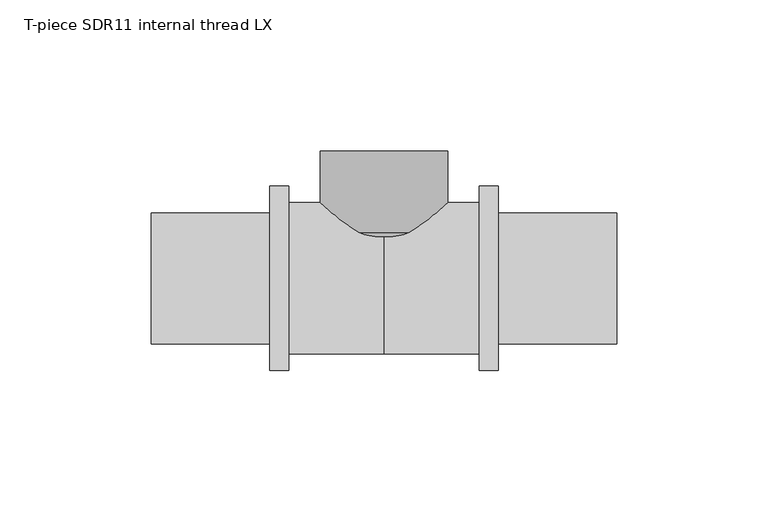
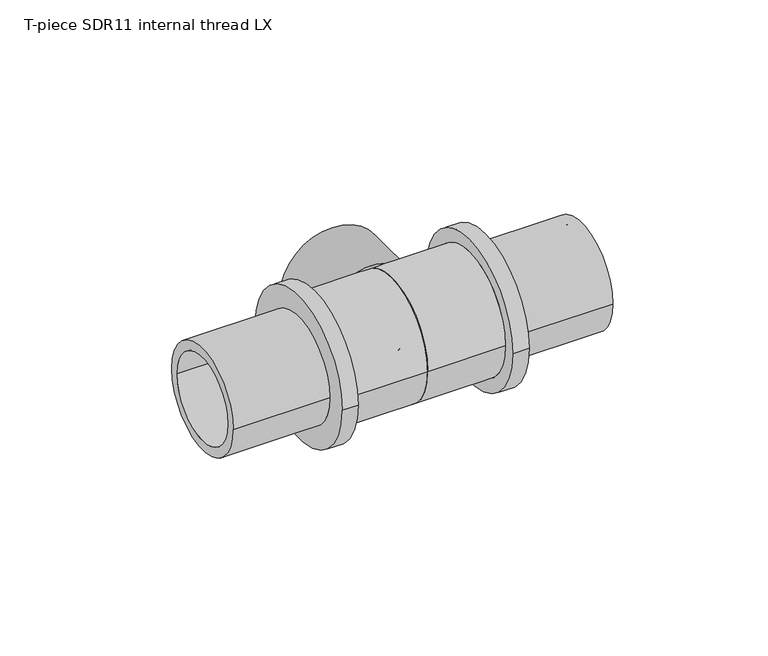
"""IFC4 building model written with IfcOpenShell, lengths in millimetres: pipe fitting geometry, T-piece SDR11 internal thread LX : T-piece LX SDR11 internal LX."""

import ifcopenshell
import ifcopenshell.guid

model = None  # the IFC model being written
_history = None  # IfcOwnerHistory: only IFC2X3 demands one
_inside = {}  # id of a spatial element -> (the spatial element, [elements in it])
_under = {}  # id of a project, library or spatial element -> (it, [spatial elements below it])
_declared = {}  # id of a project -> (the project, [libraries it declares])
_typed = {}  # id of a type object -> (the type object, [elements of that type])
_made_of = {}  # id of a material, layer set ... -> (it, [elements and type objects made of it])


def new_model(schema):
    """Start an empty IFC model of exactly this schema.

    Asked for "IFC4X3", IfcOpenShell would pick the latest addendum, in which some entities
    have other attributes; the version numbers below select the first issue.
    IFC2X3 requires an IfcOwnerHistory on every rooted entity: one is made here for all.
    """
    global model, _history
    if schema == "IFC4X3":
        model = ifcopenshell.file(schema_version=(4, 3, 0, 0))
    else:
        model = ifcopenshell.file(schema=schema)
    _inside.clear()
    _under.clear()
    _declared.clear()
    _typed.clear()
    _made_of.clear()
    _history = None
    if model.schema == "IFC2X3":
        org = make("IfcOrganization", Name="unknown")
        user = make(
            "IfcPersonAndOrganization",
            ThePerson=make("IfcPerson", FamilyName="unknown"),
            TheOrganization=org,
        )
        app = make(
            "IfcApplication",
            ApplicationDeveloper=org,
            Version="unknown",
            ApplicationFullName="unknown",
            ApplicationIdentifier="unknown",
        )
        _history = make(
            "IfcOwnerHistory",
            OwningUser=user,
            OwningApplication=app,
            ChangeAction="ADDED",
            CreationDate=0,
        )
    return model


def make(cls, **values):
    """One entity of the class cls with the attributes given. An attribute that is None is left unset."""
    return model.create_entity(
        cls, **{name: value for name, value in values.items() if value is not None}
    )


def rooted(cls, **values):
    """An entity with a GlobalId (a new one), such as an element, a storey or a relation."""
    return make(cls, GlobalId=ifcopenshell.guid.new(), OwnerHistory=_history, **values)


def si_unit(unit_type, name, prefix=None):
    """IfcSIUnit, for example si_unit("LENGTHUNIT", "METRE", prefix="MILLI")."""
    return make("IfcSIUnit", UnitType=unit_type, Prefix=prefix, Name=name)


def assignment(units):
    """IfcUnitAssignment: the units of a project."""
    return None if units is None else make("IfcUnitAssignment", Units=units)


def point(xyz):
    """IfcCartesianPoint."""
    return None if xyz is None else make("IfcCartesianPoint", Coordinates=xyz)


def direction(xyz):
    """IfcDirection."""
    return None if xyz is None else make("IfcDirection", DirectionRatios=xyz)


def frame(location, z_axis=None, x_axis=None):
    """IfcAxis2Placement3D, a coordinate frame: its origin and axes. An axis left out is left unset."""
    return make(
        "IfcAxis2Placement3D",
        Location=point(location),
        Axis=direction(z_axis),
        RefDirection=direction(x_axis),
    )


def origin():
    """The frame at (0, 0, 0) with its axes left unset."""
    return frame((0.0, 0.0, 0.0))


def place(relative_to, where):
    """IfcLocalPlacement: puts the frame where relative to a parent placement (None: the world)."""
    return make(
        "IfcLocalPlacement", PlacementRelTo=relative_to, RelativePlacement=where
    )


def context(
    kind, dimensions, precision=None, world=None, true_north=None, identifier=None
):
    """IfcGeometricRepresentationContext, for example the 3D "Model" context."""
    return make(
        "IfcGeometricRepresentationContext",
        ContextIdentifier=identifier,
        ContextType=kind,
        CoordinateSpaceDimension=dimensions,
        Precision=precision,
        WorldCoordinateSystem=world,
        TrueNorth=true_north,
    )


def project(units=None, contexts=None):
    """IfcProject with its units and contexts."""
    return rooted(
        "IfcProject",
        Name="project",
        RepresentationContexts=contexts,
        UnitsInContext=assignment(units),
    )


def spatial(cls, under=None, at=None, **own):
    """A site, building, storey or space (cls), placed at a placement, below another one or the project."""
    s = rooted(cls, ObjectPlacement=at, **own)
    if under is not None:
        _under.setdefault(under.id(), (under, []))[1].append(s)
    return s


def polyline(points):
    """IfcPolyline through the points."""
    return make("IfcPolyline", Points=[point(p) for p in points])


def circle_curve(where, radius):
    """IfcCircle in the frame where."""
    return make("IfcCircle", Position=where, Radius=radius)


def ellipse_curve(where, semi_axis1, semi_axis2):
    """IfcEllipse in the frame where."""
    return make(
        "IfcEllipse", Position=where, SemiAxis1=semi_axis1, SemiAxis2=semi_axis2
    )


def trimmed(basis, trim1, trim2, sense, master):
    """IfcTrimmedCurve: the piece of a basis curve between two trims."""
    return make(
        "IfcTrimmedCurve",
        BasisCurve=basis,
        Trim1=trim1,
        Trim2=trim2,
        SenseAgreement=sense,
        MasterRepresentation=master,
    )


def shape(context_of_items, identifier, shape_type, items):
    """IfcShapeRepresentation: the items that make up one representation, for example the "Body"."""
    return make(
        "IfcShapeRepresentation",
        ContextOfItems=context_of_items,
        RepresentationIdentifier=identifier,
        RepresentationType=shape_type,
        Items=items,
    )


def source(mapping_origin, context_of_items, identifier, shape_type, items):
    """IfcRepresentationMap: a shape defined once, which mapped items show again and again."""
    return make(
        "IfcRepresentationMap",
        MappingOrigin=mapping_origin,
        MappedRepresentation=shape(context_of_items, identifier, shape_type, items),
    )


def transform(
    local_origin,
    x_axis=None,
    y_axis=None,
    z_axis=None,
    scale=None,
    scale2=None,
    scale3=None,
    uniform=True,
):
    """IfcCartesianTransformationOperator3D, or its non-uniform kind. x_axis, y_axis, z_axis: its Axis1, 2, 3."""
    if uniform:
        return make(
            "IfcCartesianTransformationOperator3D",
            Axis1=direction(x_axis),
            Axis2=direction(y_axis),
            LocalOrigin=point(local_origin),
            Scale=scale,
            Axis3=direction(z_axis),
        )
    return make(
        "IfcCartesianTransformationOperator3DnonUniform",
        Axis1=direction(x_axis),
        Axis2=direction(y_axis),
        LocalOrigin=point(local_origin),
        Scale=scale,
        Axis3=direction(z_axis),
        Scale2=scale2,
        Scale3=scale3,
    )


def mapped(mapping_source, mapping_target):
    """IfcMappedItem: shows the shape of a source again, moved by a transform."""
    return make(
        "IfcMappedItem", MappingSource=mapping_source, MappingTarget=mapping_target
    )


def made_of(thing, what):
    """Note that an element or type object is made of a material, layer set ...; save() writes the relation."""
    if what is not None:
        _made_of.setdefault(what.id(), (what, []))[1].append(thing)
    return thing


def element(
    cls,
    number,
    at=None,
    inside=None,
    cuts=None,
    type_object=None,
    material=None,
    context=None,
    identifier="Body",
    shape_type=None,
    held_by="IfcProductDefinitionShape",
    body=None,
    shapes=None,
    **own,
):
    """One element of the class cls, such as IfcWall. Its Tag is "e" and its number.

    at: its placement. inside: the storey or other place that contains it. cuts: it is an
    opening in that element (IfcRelVoidsElement). A single representation is given by context,
    identifier, shape_type and body (its items); several are given by shapes. held_by: the class
    of the entity that holds the representations. save() writes the other relations.
    """
    e = rooted(cls, Tag="e%d" % number, ObjectPlacement=at, **own)
    if body is not None:
        shapes = [shape(context, identifier, shape_type, body)]
    if shapes is not None:
        e.Representation = make(held_by, Representations=shapes)
    if inside is not None:
        _inside.setdefault(inside.id(), (inside, []))[1].append(e)
    if cuts is not None:
        rooted(
            "IfcRelVoidsElement", RelatingBuildingElement=cuts, RelatedOpeningElement=e
        )
    if type_object is not None:
        _typed.setdefault(type_object.id(), (type_object, []))[1].append(e)
    return made_of(e, material)


def aggregate(whole, parts):
    """IfcRelAggregates: a whole, such as a stair, and the parts it consists of."""
    return rooted("IfcRelAggregates", RelatingObject=whole, RelatedObjects=parts)


def save(model, path):
    """Write the relations noted so far, then the file.

    IfcRelAggregates (storeys below a building ...), IfcRelContainedInSpatialStructure (elements
    in a storey), IfcRelDefinesByType, IfcRelAssociatesMaterial and IfcRelDeclares: one each for
    every whole, place, type object, material and project.
    """
    for whole, parts in _under.values():
        aggregate(whole, parts)
    for where, things in _inside.values():
        rooted(
            "IfcRelContainedInSpatialStructure",
            RelatedElements=things,
            RelatingStructure=where,
        )
    for kind, things in _typed.values():
        rooted("IfcRelDefinesByType", RelatedObjects=things, RelatingType=kind)
    for what, things in _made_of.values():
        rooted("IfcRelAssociatesMaterial", RelatedObjects=things, RelatingMaterial=what)
    for by, libraries in _declared.values():
        rooted("IfcRelDeclares", RelatingContext=by, RelatedDefinitions=libraries)
    model.write(path)


def plane_surface(at):
    """IfcPlane: the flat surface through the origin of the frame at, square to its z axis."""
    return make("IfcPlane", Position=at)


def cylinder_surface(at, radius):
    """IfcCylindricalSurface: all points at the distance radius from the z axis of the frame at."""
    return make("IfcCylindricalSurface", Position=at, Radius=radius)


def revolved_surface(curve, axis_point, axis_direction):
    """IfcSurfaceOfRevolution: the curve turned about the line through axis_point along axis_direction."""
    return make(
        "IfcSurfaceOfRevolution",
        SweptCurve=make("IfcArbitraryOpenProfileDef", ProfileType="CURVE", Curve=curve),
        AxisPosition=make("IfcAxis1Placement", Location=point(axis_point), Axis=direction(axis_direction)),
    )


def advanced_brep(points, edges, surfaces, faces):
    """IfcAdvancedBrep: a solid bounded by faces that lie on surfaces and meet in shared edges.

    An edge is (start, end): straight between two places in points (the first is 0);
    or (start, end, curve); or (start, end, curve, False) where it runs against its curve.
    A face is (place in surfaces, loops), or (place, loops, False) where it looks against
    its surface's normal. A loop lists edges by number (the first is 1), with a minus sign
    where the edge is run from its end to its start. The first loop is the outer one.
    """
    corners = [point(p) for p in points]
    vertices = [make("IfcVertexPoint", VertexGeometry=c) for c in corners]
    made = []
    for start, end, *more in edges:
        made.append(
            make(
                "IfcEdgeCurve",
                EdgeStart=vertices[start],
                EdgeEnd=vertices[end],
                EdgeGeometry=more[0] if more else make("IfcPolyline", Points=[corners[start], corners[end]]),
                SameSense=more[1] if len(more) > 1 else True,
            )
        )
    hull = []
    for where, loops, *sense in faces:
        bounds = []
        for j, loop in enumerate(loops):
            ring = [make("IfcOrientedEdge", EdgeElement=made[abs(k) - 1], Orientation=k > 0) for k in loop]
            bounds.append(
                make(
                    "IfcFaceOuterBound" if j == 0 else "IfcFaceBound",
                    Bound=make("IfcEdgeLoop", EdgeList=ring),
                    Orientation=True,
                )
            )
        hull.append(make("IfcAdvancedFace", Bounds=bounds, FaceSurface=surfaces[where], SameSense=sense[0] if sense else True))
    return make("IfcAdvancedBrep", Outer=make("IfcClosedShell", CfsFaces=hull))


def t_piece_sdr11_internal_thread_lx_ff95d487(model_context):
    return source(origin(), model_context, "Body", "AdvancedBrep", [
        advanced_brep(
        [(16.35, 15.85, 0.0), (-16.35, 15.85, 0.0), (-16.35, 42.0, 0.0), (16.35, 42.0, 0.0), (0.5, 0.0, 0.0), (-0.5, 0.0, 0.0), (20.2683856, 13.1922925, 0.0), (-20.2683856, 13.1922925, 0.0), (-7.0760931, 0.0, 0.0), (7.0760931, 0.0, 0.0), (21.0, 14.958566, 0.0), (-21.0, 14.958566, 0.0), (21.0, 42.0, 0.0), (-21.0, 42.0, 0.0)],
        [
            (0, 1, circle_curve(frame((0.0, 15.85, 0.0), z_axis=(0.0, -1.0, 0.0), x_axis=(-1.0, 0.0, 0.0)), 16.35)),
            (1, 2),
            (2, 3, circle_curve(frame((0.0, 42.0, 0.0), z_axis=(0.0, 1.0, 0.0), x_axis=(-1.0, 0.0, 0.0)), 16.35)),
            (3, 0),
            (4, 5, circle_curve(frame((0.0, 0.0, 0.0), z_axis=(0.0, -1.0, 0.0), x_axis=(-1.0, 0.0, 0.0)), 0.5)),
            (5, 1),
            (0, 4),
            (6, 7, circle_curve(frame((0.0, 13.1922925, 0.0), z_axis=(0.0, -1.0, 0.0), x_axis=(-1.0, 0.0, 0.0)), 20.2683856)),
            (7, 8),
            (8, 9, circle_curve(frame((0.0, 0.0, 0.0), z_axis=(0.0, 1.0, 0.0), x_axis=(-1.0, 0.0, 0.0)), 7.0760931)),
            (9, 6),
            (10, 11, circle_curve(frame((0.0, 14.958566, 0.0), z_axis=(0.0, -1.0, 0.0), x_axis=(-1.0, 0.0, 0.0)), 21.0)),
            (11, 7, circle_curve(frame((-16.35, 15.85, 0.0), z_axis=(0.0, 0.0, 1.0), x_axis=(0.0, 1.0, 0.0)), 4.7346758)),
            (6, 10, circle_curve(frame((16.35, 15.85, 0.0), z_axis=(0.0, 0.0, 1.0), x_axis=(0.0, 1.0, 0.0)), 4.7346758)),
            (12, 13, circle_curve(frame((0.0, 42.0, 0.0), z_axis=(0.0, -1.0, 0.0), x_axis=(-1.0, 0.0, 0.0)), 21.0)),
            (13, 11),
            (10, 12),
            (12, 13, circle_curve(frame((0.0, 42.0, 0.0), z_axis=(0.0, 1.0, 0.0), x_axis=(1.0, 0.0, 0.0)), 21.0)),
            (2, 3, circle_curve(frame((0.0, 42.0, 0.0), z_axis=(0.0, -1.0, 0.0), x_axis=(1.0, 0.0, 0.0)), 16.35)),
            (1, 0, circle_curve(frame((0.0, 15.85, 0.0), z_axis=(0.0, -1.0, 0.0), x_axis=(1.0, 0.0, 0.0)), 16.35)),
            (5, 4, circle_curve(frame((0.0, 0.0, 0.0), z_axis=(0.0, -1.0, 0.0), x_axis=(1.0, 0.0, 0.0)), 0.5)),
            (8, 9, circle_curve(frame((0.0, 0.0, 0.0), z_axis=(0.0, -1.0, 0.0), x_axis=(1.0, 0.0, 0.0)), 7.0760931)),
            (7, 6, circle_curve(frame((0.0, 13.1922925, 0.0), z_axis=(0.0, -1.0, 0.0), x_axis=(1.0, 0.0, 0.0)), 20.2683856)),
            (11, 10, circle_curve(frame((0.0, 14.958566, 0.0), z_axis=(0.0, -1.0, 0.0), x_axis=(1.0, 0.0, 0.0)), 21.0)),
        ],
        [
            revolved_surface(polyline([(-16.35, 42.0, 0.0), (-16.35, 15.85, 0.0)]), (0.0, 0.0, 0.0), (0.0, 1.0, 0.0)),
            revolved_surface(polyline([(-16.35, 15.85, 0.0), (-0.5, 0.0, 0.0)]), (0.0, 0.0, 0.0), (0.0, 1.0, 0.0)),
            revolved_surface(polyline([(-7.0760931, 0.0, 0.0), (-20.2683856, 13.1922925, 0.0)]), (0.0, 0.0, 0.0), (0.0, 1.0, 0.0)),
            revolved_surface(trimmed(ellipse_curve(frame((-16.35, 15.85, 0.0), z_axis=(0.0, 0.0, -1.0), x_axis=(0.0, 1.0, 0.0)), 4.7346758, 4.7346758), [point((-20.2683856, 13.1922925, 0.0))], [point((-21.0, 14.958566, 0.0))], True, "CARTESIAN"), (0.0, 0.0, 0.0), (0.0, 1.0, 0.0)),
            cylinder_surface(frame((0.0, 0.0, 0.0), z_axis=(0.0, 1.0, 0.0), x_axis=(-1.0, 0.0, 0.0)), 21.0),
            plane_surface(frame((0.0, 42.0, 0.0), z_axis=(0.0, 1.0, 0.0), x_axis=(1.0, 0.0, 0.0))),
            revolved_surface(polyline([(16.35, 42.0, 0.0), (16.35, 15.85, 0.0)]), (0.0, 0.0, 0.0), (0.0, 1.0, 0.0)),
            revolved_surface(polyline([(16.35, 15.85, 0.0), (0.5, 0.0, 0.0)]), (0.0, 0.0, 0.0), (0.0, 1.0, 0.0)),
            plane_surface(frame((0.0, 0.0, 0.0), z_axis=(0.0, -1.0, 0.0), x_axis=(1.0, 0.0, 0.0))),
            revolved_surface(polyline([(7.0760931, 0.0, 0.0), (20.2683856, 13.1922925, 0.0)]), (0.0, 0.0, 0.0), (0.0, 1.0, 0.0)),
            revolved_surface(trimmed(ellipse_curve(frame((16.35, 15.85, 0.0), z_axis=(0.0, 0.0, 1.0), x_axis=(0.0, 1.0, 0.0)), 4.7346758, 4.7346758), [point((20.2683856, 13.1922925, 0.0))], [point((21.0, 14.958566, 0.0))], True, "CARTESIAN"), (0.0, 0.0, 0.0), (0.0, 1.0, 0.0)),
            cylinder_surface(frame((0.0, 0.0, 0.0), z_axis=(0.0, 1.0, 0.0), x_axis=(1.0, 0.0, 0.0)), 21.0),
        ],
        [
            (0, [[1, 2, 3, 4]]),
            (1, [[5, 6, -1, 7]]),
            (2, [[8, 9, 10, 11]]),
            (3, [[12, 13, -8, 14]]),
            (4, [[15, 16, -12, 17]]),
            (5, [[18, -15], [19, -3]]),
            (6, [[20, -4, -19, -2]]),
            (7, [[21, -7, -20, -6]]),
            (8, [[22, -10], [-21, -5]]),
            (9, [[23, -11, -22, -9]]),
            (10, [[24, -14, -23, -13]]),
            (11, [[-18, -17, -24, -16]]),
        ],
    ),
        advanced_brep(
        [(37.8, 30.5, 0.0), (37.8, -30.5, 0.0), (31.4, -30.5, 0.0), (31.4, 30.5, 0.0), (76.8, 21.65, 0.0), (76.8, -21.65, 0.0), (37.8, -21.65, 0.0), (37.8, 21.65, 0.0), (0.0, 17.75, 0.0), (0.0, -17.75, 0.0), (76.8, -17.75, 0.0), (76.8, 17.75, 0.0), (31.4, 25.0, 0.0), (31.4, -25.0, 0.0), (0.0, -25.0, 0.0), (0.0, 25.0, 0.0)],
        [
            (0, 1, circle_curve(frame((37.8, 0.0, 0.0), z_axis=(-1.0, 0.0, 0.0), x_axis=(0.0, -1.0, 0.0)), 30.5)),
            (1, 2),
            (2, 3, circle_curve(frame((31.4, 0.0, 0.0), z_axis=(1.0, 0.0, 0.0), x_axis=(0.0, -1.0, 0.0)), 30.5)),
            (3, 0),
            (4, 5, circle_curve(frame((76.8, 0.0, 0.0), z_axis=(-1.0, 0.0, 0.0), x_axis=(0.0, -1.0, 0.0)), 21.65)),
            (5, 6),
            (6, 7, circle_curve(frame((37.8, 0.0, 0.0), z_axis=(1.0, 0.0, 0.0), x_axis=(0.0, -1.0, 0.0)), 21.65)),
            (7, 4),
            (8, 9, circle_curve(frame((0.0, 0.0, 0.0), z_axis=(-1.0, 0.0, 0.0), x_axis=(0.0, -1.0, 0.0)), 17.75)),
            (9, 10),
            (10, 11, circle_curve(frame((76.8, 0.0, 0.0), z_axis=(1.0, 0.0, 0.0), x_axis=(0.0, -1.0, 0.0)), 17.75)),
            (11, 8),
            (12, 13, circle_curve(frame((31.4, 0.0, 0.0), z_axis=(-1.0, 0.0, 0.0), x_axis=(0.0, -1.0, 0.0)), 25.0)),
            (13, 14),
            (14, 15, circle_curve(frame((0.0, 0.0, 0.0), z_axis=(1.0, 0.0, 0.0), x_axis=(0.0, -1.0, 0.0)), 25.0)),
            (15, 12),
            (1, 0, circle_curve(frame((37.8, 0.0, 0.0), z_axis=(-1.0, 0.0, 0.0), x_axis=(0.0, 1.0, 0.0)), 30.5)),
            (3, 2, circle_curve(frame((31.4, 0.0, 0.0), z_axis=(1.0, 0.0, 0.0), x_axis=(0.0, 1.0, 0.0)), 30.5)),
            (6, 7, circle_curve(frame((37.8, 0.0, 0.0), z_axis=(-1.0, 0.0, 0.0), x_axis=(0.0, 1.0, 0.0)), 21.65)),
            (5, 4, circle_curve(frame((76.8, 0.0, 0.0), z_axis=(-1.0, 0.0, 0.0), x_axis=(0.0, 1.0, 0.0)), 21.65)),
            (10, 11, circle_curve(frame((76.8, 0.0, 0.0), z_axis=(-1.0, 0.0, 0.0), x_axis=(0.0, 1.0, 0.0)), 17.75)),
            (9, 8, circle_curve(frame((0.0, 0.0, 0.0), z_axis=(-1.0, 0.0, 0.0), x_axis=(0.0, 1.0, 0.0)), 17.75)),
            (14, 15, circle_curve(frame((0.0, 0.0, 0.0), z_axis=(-1.0, 0.0, 0.0), x_axis=(0.0, 1.0, 0.0)), 25.0)),
            (13, 12, circle_curve(frame((31.4, 0.0, 0.0), z_axis=(-1.0, 0.0, 0.0), x_axis=(0.0, 1.0, 0.0)), 25.0)),
        ],
        [
            cylinder_surface(frame((0.0, 0.0, 0.0), z_axis=(1.0, 0.0, 0.0), x_axis=(0.0, -1.0, 0.0)), 30.5),
            cylinder_surface(frame((0.0, 0.0, 0.0), z_axis=(1.0, 0.0, 0.0), x_axis=(0.0, -1.0, 0.0)), 21.65),
            revolved_surface(polyline([(76.8, -17.75, 0.0), (0.0, -17.75, 0.0)]), (0.0, 0.0, 0.0), (1.0, 0.0, 0.0)),
            cylinder_surface(frame((0.0, 0.0, 0.0), z_axis=(1.0, 0.0, 0.0), x_axis=(0.0, -1.0, 0.0)), 25.0),
            cylinder_surface(frame((0.0, 0.0, 0.0), z_axis=(1.0, 0.0, 0.0), x_axis=(0.0, 1.0, 0.0)), 30.5),
            plane_surface(frame((37.8, 0.0, 0.0), z_axis=(1.0, 0.0, 0.0), x_axis=(0.0, 1.0, 0.0))),
            cylinder_surface(frame((0.0, 0.0, 0.0), z_axis=(1.0, 0.0, 0.0), x_axis=(0.0, 1.0, 0.0)), 21.65),
            plane_surface(frame((76.8, 0.0, 0.0), z_axis=(1.0, 0.0, 0.0), x_axis=(0.0, 1.0, 0.0))),
            revolved_surface(polyline([(76.8, 17.75, 0.0), (0.0, 17.75, 0.0)]), (0.0, 0.0, 0.0), (1.0, 0.0, 0.0)),
            plane_surface(frame((0.0, 0.0, 0.0), z_axis=(-1.0, 0.0, 0.0), x_axis=(0.0, 1.0, 0.0))),
            cylinder_surface(frame((0.0, 0.0, 0.0), z_axis=(1.0, 0.0, 0.0), x_axis=(0.0, 1.0, 0.0)), 25.0),
            plane_surface(frame((31.4, 0.0, 0.0), z_axis=(-1.0, 0.0, 0.0), x_axis=(0.0, 1.0, 0.0))),
        ],
        [
            (0, [[1, 2, 3, 4]]),
            (1, [[5, 6, 7, 8]]),
            (2, [[9, 10, 11, 12]]),
            (3, [[13, 14, 15, 16]]),
            (4, [[17, -4, 18, -2]]),
            (5, [[-17, -1], [19, -7]]),
            (6, [[20, -8, -19, -6]]),
            (7, [[-20, -5], [21, -11]]),
            (8, [[22, -12, -21, -10]]),
            (9, [[23, -15], [-22, -9]]),
            (10, [[24, -16, -23, -14]]),
            (11, [[-18, -3], [-24, -13]]),
        ],
    ),
        advanced_brep(
        [(0.0, 25.0, 0.0), (0.0, -25.0, 0.0), (-31.4, -25.0, 0.0), (-31.4, 25.0, 0.0), (-76.8, 17.75, 0.0), (-76.8, -17.75, 0.0), (0.0, -17.75, 0.0), (0.0, 17.75, 0.0), (-37.8, 21.65, 0.0), (-37.8, -21.65, 0.0), (-76.8, -21.65, 0.0), (-76.8, 21.65, 0.0), (-31.4, 30.5, 0.0), (-31.4, -30.5, 0.0), (-37.8, -30.5, 0.0), (-37.8, 30.5, 0.0)],
        [
            (0, 1, circle_curve(frame((0.0, 0.0, 0.0), z_axis=(-1.0, 0.0, 0.0), x_axis=(0.0, -1.0, 0.0)), 25.0)),
            (1, 2),
            (2, 3, circle_curve(frame((-31.4, 0.0, 0.0), z_axis=(1.0, 0.0, 0.0), x_axis=(0.0, -1.0, 0.0)), 25.0)),
            (3, 0),
            (4, 5, circle_curve(frame((-76.8, 0.0, 0.0), z_axis=(-1.0, 0.0, 0.0), x_axis=(0.0, -1.0, 0.0)), 17.75)),
            (5, 6),
            (6, 7, circle_curve(frame((0.0, 0.0, 0.0), z_axis=(1.0, 0.0, 0.0), x_axis=(0.0, -1.0, 0.0)), 17.75)),
            (7, 4),
            (8, 9, circle_curve(frame((-37.8, 0.0, 0.0), z_axis=(-1.0, 0.0, 0.0), x_axis=(0.0, -1.0, 0.0)), 21.65)),
            (9, 10),
            (10, 11, circle_curve(frame((-76.8, 0.0, 0.0), z_axis=(1.0, 0.0, 0.0), x_axis=(0.0, -1.0, 0.0)), 21.65)),
            (11, 8),
            (12, 13, circle_curve(frame((-31.4, 0.0, 0.0), z_axis=(-1.0, 0.0, 0.0), x_axis=(0.0, -1.0, 0.0)), 30.5)),
            (13, 14),
            (14, 15, circle_curve(frame((-37.8, 0.0, 0.0), z_axis=(1.0, 0.0, 0.0), x_axis=(0.0, -1.0, 0.0)), 30.5)),
            (15, 12),
            (12, 13, circle_curve(frame((-31.4, 0.0, 0.0), z_axis=(1.0, 0.0, 0.0), x_axis=(0.0, 1.0, 0.0)), 30.5)),
            (2, 3, circle_curve(frame((-31.4, 0.0, 0.0), z_axis=(-1.0, 0.0, 0.0), x_axis=(0.0, 1.0, 0.0)), 25.0)),
            (1, 0, circle_curve(frame((0.0, 0.0, 0.0), z_axis=(-1.0, 0.0, 0.0), x_axis=(0.0, 1.0, 0.0)), 25.0)),
            (6, 7, circle_curve(frame((0.0, 0.0, 0.0), z_axis=(-1.0, 0.0, 0.0), x_axis=(0.0, 1.0, 0.0)), 17.75)),
            (5, 4, circle_curve(frame((-76.8, 0.0, 0.0), z_axis=(-1.0, 0.0, 0.0), x_axis=(0.0, 1.0, 0.0)), 17.75)),
            (10, 11, circle_curve(frame((-76.8, 0.0, 0.0), z_axis=(-1.0, 0.0, 0.0), x_axis=(0.0, 1.0, 0.0)), 21.65)),
            (9, 8, circle_curve(frame((-37.8, 0.0, 0.0), z_axis=(-1.0, 0.0, 0.0), x_axis=(0.0, 1.0, 0.0)), 21.65)),
            (14, 15, circle_curve(frame((-37.8, 0.0, 0.0), z_axis=(-1.0, 0.0, 0.0), x_axis=(0.0, 1.0, 0.0)), 30.5)),
        ],
        [
            cylinder_surface(frame((0.0, 0.0, 0.0), z_axis=(1.0, 0.0, 0.0), x_axis=(0.0, -1.0, 0.0)), 25.0),
            revolved_surface(polyline([(0.0, -17.75, 0.0), (-76.8, -17.75, 0.0)]), (0.0, 0.0, 0.0), (1.0, 0.0, 0.0)),
            cylinder_surface(frame((0.0, 0.0, 0.0), z_axis=(1.0, 0.0, 0.0), x_axis=(0.0, -1.0, 0.0)), 21.65),
            cylinder_surface(frame((0.0, 0.0, 0.0), z_axis=(1.0, 0.0, 0.0), x_axis=(0.0, -1.0, 0.0)), 30.5),
            plane_surface(frame((-31.4, 0.0, 0.0), z_axis=(1.0, 0.0, 0.0), x_axis=(0.0, 1.0, 0.0))),
            cylinder_surface(frame((0.0, 0.0, 0.0), z_axis=(1.0, 0.0, 0.0), x_axis=(0.0, 1.0, 0.0)), 25.0),
            plane_surface(frame((0.0, 0.0, 0.0), z_axis=(1.0, 0.0, 0.0), x_axis=(0.0, 1.0, 0.0))),
            revolved_surface(polyline([(0.0, 17.75, 0.0), (-76.8, 17.75, 0.0)]), (0.0, 0.0, 0.0), (1.0, 0.0, 0.0)),
            plane_surface(frame((-76.8, 0.0, 0.0), z_axis=(-1.0, 0.0, 0.0), x_axis=(0.0, 1.0, 0.0))),
            cylinder_surface(frame((0.0, 0.0, 0.0), z_axis=(1.0, 0.0, 0.0), x_axis=(0.0, 1.0, 0.0)), 21.65),
            plane_surface(frame((-37.8, 0.0, 0.0), z_axis=(-1.0, 0.0, 0.0), x_axis=(0.0, 1.0, 0.0))),
            cylinder_surface(frame((0.0, 0.0, 0.0), z_axis=(1.0, 0.0, 0.0), x_axis=(0.0, 1.0, 0.0)), 30.5),
        ],
        [
            (0, [[1, 2, 3, 4]]),
            (1, [[5, 6, 7, 8]]),
            (2, [[9, 10, 11, 12]]),
            (3, [[13, 14, 15, 16]]),
            (4, [[17, -13], [18, -3]]),
            (5, [[19, -4, -18, -2]]),
            (6, [[-19, -1], [20, -7]]),
            (7, [[21, -8, -20, -6]]),
            (8, [[22, -11], [-21, -5]]),
            (9, [[23, -12, -22, -10]]),
            (10, [[24, -15], [-23, -9]]),
            (11, [[-17, -16, -24, -14]]),
        ],
    ),
    ])


if __name__ == "__main__":
    model = new_model("IFC4")
    model_context = context("Model", 3, world=origin())
    ifc_project = project(units=[si_unit("LENGTHUNIT", "METRE", prefix="MILLI")], contexts=[model_context])
    site = spatial("IfcSite", under=ifc_project)
    building = spatial("IfcBuilding", under=site)
    placement = place(None, origin())
    t_piece_sdr11_internal_thread_lx_shape = t_piece_sdr11_internal_thread_lx_ff95d487(model_context)
    element("IfcPipeFitting", 1, ObjectType="T-piece SDR11 internal thread LX : T-piece LX SDR11 internal LX", at=placement, inside=building, context=model_context, shape_type="MappedRepresentation", body=[
        mapped(t_piece_sdr11_internal_thread_lx_shape, transform((0.0, 0.0, 0.0), x_axis=(1.0, 0.0, 0.0), y_axis=(0.0, 1.0, 0.0), z_axis=(0.0, 0.0, 1.0))),
    ])
    save(model, "model.ifc")
